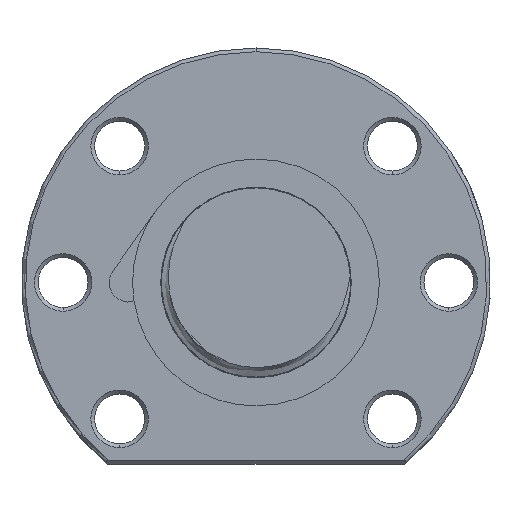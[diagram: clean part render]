
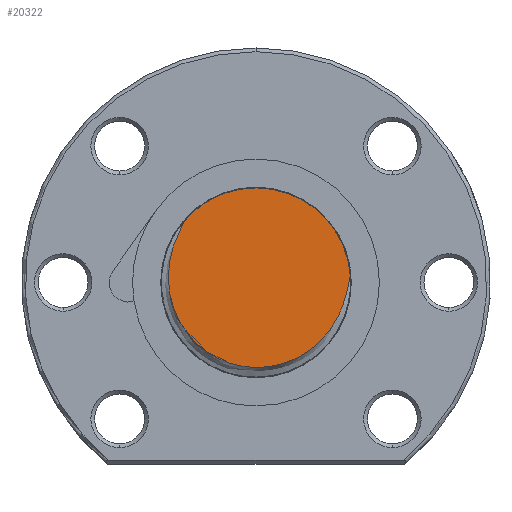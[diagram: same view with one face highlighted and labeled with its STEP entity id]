
A CAD part, left-side view. The second image highlights one B-rep face of the part: STEP entity #20322.
In plain terms, the highlighted planar face has unit normal (-1, 0, 0).
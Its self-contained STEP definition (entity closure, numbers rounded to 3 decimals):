
#11224 = FACE_OUTER_BOUND ( 'NONE', #20325, .T. ) ;
#11286 = DIRECTION ( 'NONE',  ( 0., 0., -1. ) ) ;
#11287 = DIRECTION ( 'NONE',  ( 1., 0., 0. ) ) ;
#11288 = CARTESIAN_POINT ( 'NONE',  ( -106., 0., 0. ) ) ;
#11289 = AXIS2_PLACEMENT_3D ( 'NONE', #11288, #11287, #11286 ) ;
#11295 = PLANE ( 'NONE',  #11289 ) ;
#11296 = CARTESIAN_POINT ( 'NONE',  ( -106., 10.314, 6.388 ) ) ;
#11297 = CARTESIAN_POINT ( 'NONE',  ( -106., 10.013, 7.035 ) ) ;
#11298 = CARTESIAN_POINT ( 'NONE',  ( -106., 9.91, 7.249 ) ) ;
#11299 = CARTESIAN_POINT ( 'NONE',  ( -106., 9.704, 7.678 ) ) ;
#11300 = CARTESIAN_POINT ( 'NONE',  ( -106., 9.6, 7.892 ) ) ;
#11301 = CARTESIAN_POINT ( 'NONE',  ( -106., 9.51, 8.112 ) ) ;
#11302 = B_SPLINE_CURVE_WITH_KNOTS ( 'NONE', 3,
 ( #11301, #11300, #11299, #11298, #11297, #11296, #11383, #11382, #11381, #11380, #11379, #11378, #11377, #11376, #11375, #11374, #11373, #11372, #11371, #11370, #11369, #11368, #11367, #11366, #11365, #11364, #11363, #11362, #11361, #11360, #11359, #11358, #11357, #11356, #11355, #11354, #11353, #11352, #11351, #11350, #11349, #11348, #11347, #11346, #11345, #11344, #11343, #11342, #11341, #11340, #11339, #11338, #11337, #11336, #11335, #11334, #11420, #11419, #11418, #11417 ),
 .UNSPECIFIED., .F., .F.,
 ( 4, 2, 2, 2, 2, 2, 2, 2, 2, 2, 2, 2, 2, 2, 2, 2, 2, 2, 2, 2, 2, 2, 2, 2, 2, 2, 2, 2, 2, 4 ),
 ( 0.005, 0.006, 0.007, 0.008, 0.011, 0.012, 0.014, 0.017, 0.018, 0.02, 0.021, 0.022, 0.024, 0.025, 0.028, 0.029, 0.031, 0.032, 0.034, 0.037, 0.038, 0.039, 0.041, 0.042, 0.044, 0.045, 0.048, 0.049, 0.05, 0.051 ),
 .UNSPECIFIED. ) ;
#11334 = CARTESIAN_POINT ( 'NONE',  ( -106., -12.236, -0.195 ) ) ;
#11335 = CARTESIAN_POINT ( 'NONE',  ( -106., -12.1, -0.896 ) ) ;
#11336 = CARTESIAN_POINT ( 'NONE',  ( -106., -11.996, -1.359 ) ) ;
#11337 = CARTESIAN_POINT ( 'NONE',  ( -106., -11.622, -2.728 ) ) ;
#11338 = CARTESIAN_POINT ( 'NONE',  ( -106., -11.293, -3.613 ) ) ;
#11339 = CARTESIAN_POINT ( 'NONE',  ( -106., -10.651, -4.891 ) ) ;
#11340 = CARTESIAN_POINT ( 'NONE',  ( -106., -10.414, -5.303 ) ) ;
#11341 = CARTESIAN_POINT ( 'NONE',  ( -106., -9.9, -6.095 ) ) ;
#11342 = CARTESIAN_POINT ( 'NONE',  ( -106., -9.621, -6.476 ) ) ;
#11343 = CARTESIAN_POINT ( 'NONE',  ( -106., -9.022, -7.205 ) ) ;
#11344 = CARTESIAN_POINT ( 'NONE',  ( -106., -8.7, -7.554 ) ) ;
#11345 = CARTESIAN_POINT ( 'NONE',  ( -106., -8.013, -8.217 ) ) ;
#11346 = CARTESIAN_POINT ( 'NONE',  ( -106., -7.654, -8.525 ) ) ;
#11347 = CARTESIAN_POINT ( 'NONE',  ( -106., -6.903, -9.095 ) ) ;
#11348 = CARTESIAN_POINT ( 'NONE',  ( -106., -6.512, -9.358 ) ) ;
#11349 = CARTESIAN_POINT ( 'NONE',  ( -106., -5.697, -9.838 ) ) ;
#11350 = CARTESIAN_POINT ( 'NONE',  ( -106., -5.271, -10.056 ) ) ;
#11351 = CARTESIAN_POINT ( 'NONE',  ( -106., -3.965, -10.628 ) ) ;
#11352 = CARTESIAN_POINT ( 'NONE',  ( -106., -3.062, -10.899 ) ) ;
#11353 = CARTESIAN_POINT ( 'NONE',  ( -106., -1.662, -11.142 ) ) ;
#11354 = CARTESIAN_POINT ( 'NONE',  ( -106., -1.185, -11.195 ) ) ;
#11355 = CARTESIAN_POINT ( 'NONE',  ( -106., -0.239, -11.242 ) ) ;
#11356 = CARTESIAN_POINT ( 'NONE',  ( -106., 0.232, -11.237 ) ) ;
#11357 = CARTESIAN_POINT ( 'NONE',  ( -106., 1.172, -11.169 ) ) ;
#11358 = CARTESIAN_POINT ( 'NONE',  ( -106., 1.64, -11.107 ) ) ;
#11359 = CARTESIAN_POINT ( 'NONE',  ( -106., 2.573, -10.925 ) ) ;
#11360 = CARTESIAN_POINT ( 'NONE',  ( -106., 3.036, -10.804 ) ) ;
#11361 = CARTESIAN_POINT ( 'NONE',  ( -106., 4.383, -10.363 ) ) ;
#11362 = CARTESIAN_POINT ( 'NONE',  ( -106., 5.237, -9.965 ) ) ;
#11363 = CARTESIAN_POINT ( 'NONE',  ( -106., 6.45, -9.205 ) ) ;
#11364 = CARTESIAN_POINT ( 'NONE',  ( -106., 6.836, -8.929 ) ) ;
#11365 = CARTESIAN_POINT ( 'NONE',  ( -106., 7.568, -8.335 ) ) ;
#11366 = CARTESIAN_POINT ( 'NONE',  ( -106., 7.915, -8.017 ) ) ;
#11367 = CARTESIAN_POINT ( 'NONE',  ( -106., 8.57, -7.339 ) ) ;
#11368 = CARTESIAN_POINT ( 'NONE',  ( -106., 8.88, -6.977 ) ) ;
#11369 = CARTESIAN_POINT ( 'NONE',  ( -106., 9.455, -6.217 ) ) ;
#11370 = CARTESIAN_POINT ( 'NONE',  ( -106., 9.716, -5.823 ) ) ;
#11371 = CARTESIAN_POINT ( 'NONE',  ( -106., 10.189, -5.01 ) ) ;
#11372 = CARTESIAN_POINT ( 'NONE',  ( -106., 10.401, -4.59 ) ) ;
#11373 = CARTESIAN_POINT ( 'NONE',  ( -106., 10.776, -3.725 ) ) ;
#11374 = CARTESIAN_POINT ( 'NONE',  ( -106., 10.939, -3.277 ) ) ;
#11375 = CARTESIAN_POINT ( 'NONE',  ( -106., 11.347, -1.909 ) ) ;
#11376 = CARTESIAN_POINT ( 'NONE',  ( -106., 11.507, -0.985 ) ) ;
#11377 = CARTESIAN_POINT ( 'NONE',  ( -106., 11.59, 0.42 ) ) ;
#11378 = CARTESIAN_POINT ( 'NONE',  ( -106., 11.592, 0.891 ) ) ;
#11379 = CARTESIAN_POINT ( 'NONE',  ( -106., 11.541, 1.839 ) ) ;
#11380 = CARTESIAN_POINT ( 'NONE',  ( -106., 11.489, 2.314 ) ) ;
#11381 = CARTESIAN_POINT ( 'NONE',  ( -106., 11.259, 3.712 ) ) ;
#11382 = CARTESIAN_POINT ( 'NONE',  ( -106., 11.008, 4.62 ) ) ;
#11383 = CARTESIAN_POINT ( 'NONE',  ( -106., 10.504, 5.95 ) ) ;
#11417 = CARTESIAN_POINT ( 'NONE',  ( -106., -12.462, 0.974 ) ) ;
#11418 = CARTESIAN_POINT ( 'NONE',  ( -106., -12.405, 0.743 ) ) ;
#11419 = CARTESIAN_POINT ( 'NONE',  ( -106., -12.364, 0.508 ) ) ;
#11420 = CARTESIAN_POINT ( 'NONE',  ( -106., -12.279, 0.04 ) ) ;
#13024 = EDGE_CURVE ( 'NONE', #13025, #13026, #23943, .T. ) ;
#13025 = VERTEX_POINT ( 'NONE', #23935 ) ;
#13026 = VERTEX_POINT ( 'NONE', #23933 ) ;
#18039 = EDGE_CURVE ( 'NONE', #13026, #18042, #27202, .T. ) ;
#18042 = VERTEX_POINT ( 'NONE', #27195 ) ;
#20322 = ADVANCED_FACE ( 'NONE', ( #11224 ), #11295, .F. ) ;
#20325 = EDGE_LOOP ( 'NONE', ( #20327, #20329, #20349 ) ) ;
#20327 = ORIENTED_EDGE ( 'NONE', *, *, #13024, .F. ) ;
#20329 = ORIENTED_EDGE ( 'NONE', *, *, #20346, .T. ) ;
#20346 = EDGE_CURVE ( 'NONE', #13025, #18042, #11302, .T. ) ;
#20349 = ORIENTED_EDGE ( 'NONE', *, *, #18039, .F. ) ;
#23933 = CARTESIAN_POINT ( 'NONE',  ( -106., 0., 12.5 ) ) ;
#23935 = CARTESIAN_POINT ( 'NONE',  ( -106., 9.51, 8.112 ) ) ;
#23937 = DIRECTION ( 'NONE',  ( 0., 1., 0. ) ) ;
#23939 = DIRECTION ( 'NONE',  ( 1., 0., 0. ) ) ;
#23941 = AXIS2_PLACEMENT_3D ( 'NONE', #23955, #23939, #23937 ) ;
#23943 = CIRCLE ( 'NONE', #23941, 12.5 ) ;
#23955 = CARTESIAN_POINT ( 'NONE',  ( -106., 0., 0. ) ) ;
#27195 = CARTESIAN_POINT ( 'NONE',  ( -106., -12.462, 0.974 ) ) ;
#27197 = DIRECTION ( 'NONE',  ( 0., 1., 0. ) ) ;
#27199 = DIRECTION ( 'NONE',  ( 1., 0., 0. ) ) ;
#27201 = AXIS2_PLACEMENT_3D ( 'NONE', #27211, #27199, #27197 ) ;
#27202 = CIRCLE ( 'NONE', #27201, 12.5 ) ;
#27211 = CARTESIAN_POINT ( 'NONE',  ( -106., 0., 0. ) ) ;
